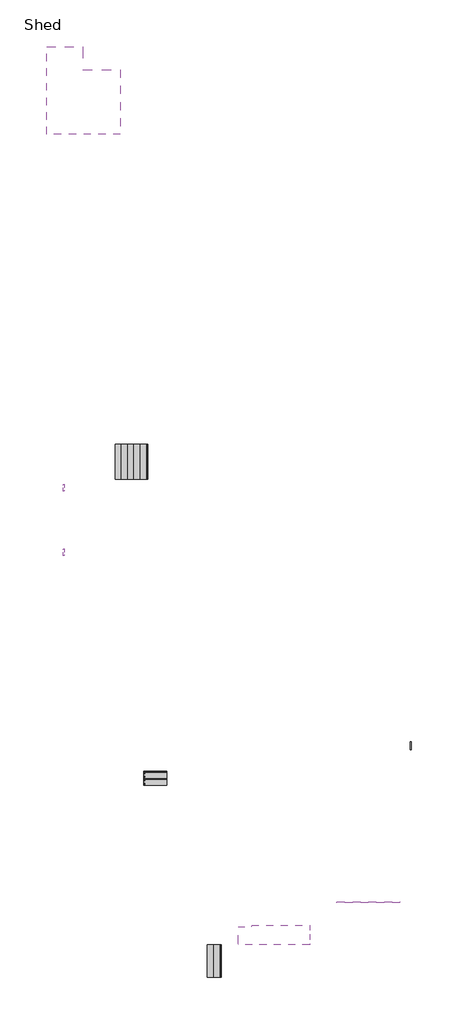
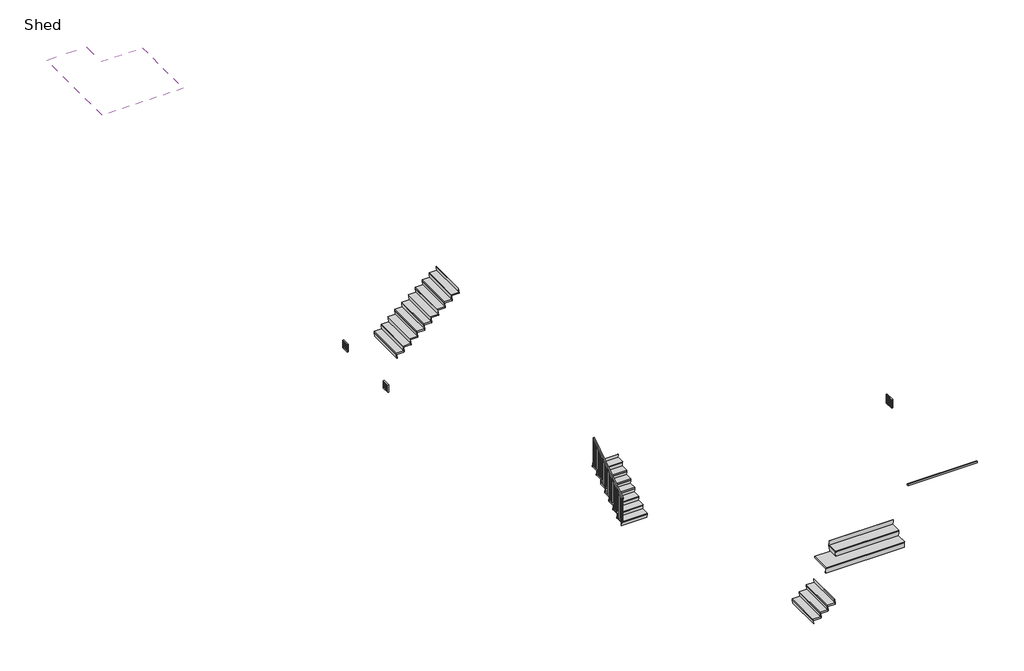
# One storey, incomplete: 4 proxies, 4 stair flights, 1 covering, 1 railing.
"""IFC4 building model written with IfcOpenShell, lengths in millimetres."""

from ifc_helpers import new_model, si_unit, frame, origin, origin_with_axes, place, context, project, spatial, polyline, outline, extrude, transform, mapped, element, save
from components import exhaust_vent_exhaust_vent_d7c90e6a, exhaust_vent_exhaust_vent_9e1b2ee5, exhaust_vent_exhaust_vent_fc6d5a12, type_1_f872f524, stair_flight_50mm_tread_25mm_nosing_13mm_riser_cfb7cb60, stair_flight_50mm_tread_25mm_nosing_13mm_riser_dd2ab24c, stair_flight_50mm_tread_25mm_nosing_13mm_riser_2b7aec5b, stair_flight_50mm_tread_25mm_nosing_13mm_riser_8857c591

model = new_model("IFC4")

# Units and contexts
model_context = context("Model", 3, world=origin())
ifc_project = project(units=[si_unit("LENGTHUNIT", "METRE", prefix="MILLI")], contexts=[model_context])

# Site, building, storey
site = spatial("IfcSite", under=ifc_project)
building = spatial("IfcBuilding", under=site)
storey = spatial("IfcBuildingStorey", under=building, Name="Shed", Elevation=-2133.6)

# Proxies
placement = place(None, origin())
exhaust_vent_exhaust_vent_shape = exhaust_vent_exhaust_vent_d7c90e6a(model_context)
element("IfcBuildingElementProxy", 1, Name="Exhaust Vent : Exhaust Vent", ObjectType="Exhaust Vent : Exhaust Vent", at=placement, inside=storey, context=model_context, shape_type="MappedRepresentation", body=[
    mapped(exhaust_vent_exhaust_vent_shape, transform((8322.5517773, 15533.490736, -2470.511644), x_axis=(0.0, 1.0, 0.0), y_axis=(-1.0, 0.0, 0.0), z_axis=(0.0, 0.0, 1.0))),
])
exhaust_vent_exhaust_vent_2_shape = exhaust_vent_exhaust_vent_9e1b2ee5(model_context)
element("IfcBuildingElementProxy", 2, Name="Exhaust Vent : Exhaust Vent", ObjectType="Exhaust Vent : Exhaust Vent", at=placement, inside=storey, context=model_context, shape_type="MappedRepresentation", body=[
    mapped(exhaust_vent_exhaust_vent_2_shape, transform((8170.1517773, 12998.985336, -2470.511644), x_axis=(0.0, 1.0, 0.0), y_axis=(-1.0, 0.0, 0.0), z_axis=(0.0, 0.0, 1.0))),
])
exhaust_vent_exhaust_vent_3_shape = exhaust_vent_exhaust_vent_fc6d5a12(model_context)
element("IfcBuildingElementProxy", 3, Name="Exhaust Vent : Exhaust Vent", ObjectType="Exhaust Vent : Exhaust Vent", at=placement, inside=storey, context=model_context, shape_type="MappedRepresentation", body=[
    mapped(exhaust_vent_exhaust_vent_3_shape, transform((21549.6017773, 5349.996545, -3215.1512803), x_axis=(0.0, -1.0, 0.0), y_axis=(1.0, 0.0, 0.0), z_axis=(0.0, 0.0, 1.0))),
])
type_1_shape = type_1_f872f524(model_context)
element("IfcBuildingElementProxy", 4, Name="Window Header_Lentil : Type 1", ObjectType="Window Header_Lentil : Type 1", at=placement, inside=storey, context=model_context, shape_type="MappedRepresentation", body=[
    mapped(type_1_shape, transform((20156.8549773, -442.6090595, -1945.2), x_axis=(-1.0, 0.0, 0.0), y_axis=(0.0, -1.0, 0.0), z_axis=(0.0, 0.0, 1.0))),
])

# Covering
element("IfcCovering", 5, ObjectType="1/2\" Ceiling", at=placement, inside=storey, context=model_context, shape_type="SweptSolid", body=[
    extrude(outline(polyline([(7338.2017773, 32930.5963405), (8766.9517773, 32930.5963405), (8766.9517773, 32016.1963405), (10252.8517773, 32016.1963405), (10252.8517773, 29469.8463405), (7338.2017773, 29469.8463405), (7338.2017773, 32930.5963405)])), origin_with_axes(), (0.0, 0.0, 1.0), 12.7),
])

# Railing
element("IfcRailing", 6, ObjectType="900mm Rectangular", at=placement, inside=storey, context=model_context, shape_type="SweptSolid", body=[
    extrude(outline(polyline([(3790.7855405, -360.4190515), (3790.7855405, -300.15), (5574.0409405, 900.0), (5574.0409405, 839.7309485), (3790.7855405, -360.4190515)])), frame((11172.5517773, 0.0, 0.0), z_axis=(1.0, 0.0, 0.0), x_axis=(0.0, 1.0, 0.0)), (0.0, 0.0, 1.0), 50.0),
    extrude(outline(polyline([(5497.0355405, 787.9054888), (5522.0355405, 804.7307568), (5522.0355405, -171.45), (5497.0355405, -171.45), (5497.0355405, 787.9054888)])), frame((11185.0517773, 0.0, 0.0), z_axis=(1.0, 0.0, 0.0), x_axis=(0.0, 1.0, 0.0)), (0.0, 0.0, 1.0), 25.0),
    extrude(outline(polyline([(5359.5355405, 695.3665149), (5384.5355405, 712.1917829), (5384.5355405, -171.45), (5359.5355405, -171.45), (5359.5355405, 695.3665149)])), frame((11185.0517773, 0.0, 0.0), z_axis=(1.0, 0.0, 0.0), x_axis=(0.0, 1.0, 0.0)), (0.0, 0.0, 1.0), 25.0),
    extrude(outline(polyline([(5222.0355405, 602.8275409), (5247.0355405, 619.6528089), (5247.0355405, -342.9), (5222.0355405, -342.9), (5222.0355405, 602.8275409)])), frame((11185.0517773, 0.0, 0.0), z_axis=(1.0, 0.0, 0.0), x_axis=(0.0, 1.0, 0.0)), (0.0, 0.0, 1.0), 25.0),
    extrude(outline(polyline([(5084.5355405, 510.288567), (5109.5355405, 527.113835), (5109.5355405, -342.9), (5084.5355405, -342.9), (5084.5355405, 510.288567)])), frame((11185.0517773, 0.0, 0.0), z_axis=(1.0, 0.0, 0.0), x_axis=(0.0, 1.0, 0.0)), (0.0, 0.0, 1.0), 25.0),
    extrude(outline(polyline([(4947.0355405, 417.749593), (4972.0355405, 434.574861), (4972.0355405, -514.35), (4947.0355405, -514.35), (4947.0355405, 417.749593)])), frame((11185.0517773, 0.0, 0.0), z_axis=(1.0, 0.0, 0.0), x_axis=(0.0, 1.0, 0.0)), (0.0, 0.0, 1.0), 25.0),
    extrude(outline(polyline([(4809.5355405, 325.2106191), (4834.5355405, 342.0358871), (4834.5355405, -514.35), (4809.5355405, -514.35), (4809.5355405, 325.2106191)])), frame((11185.0517773, 0.0, 0.0), z_axis=(1.0, 0.0, 0.0), x_axis=(0.0, 1.0, 0.0)), (0.0, 0.0, 1.0), 25.0),
    extrude(outline(polyline([(4672.0355405, 232.6716451), (4697.0355405, 249.4969131), (4697.0355405, -685.8), (4672.0355405, -685.8), (4672.0355405, 232.6716451)])), frame((11185.0517773, 0.0, 0.0), z_axis=(1.0, 0.0, 0.0), x_axis=(0.0, 1.0, 0.0)), (0.0, 0.0, 1.0), 25.0),
    extrude(outline(polyline([(4534.5355405, 140.1326712), (4559.5355405, 156.9579392), (4559.5355405, -857.25), (4534.5355405, -857.25), (4534.5355405, 140.1326712)])), frame((11185.0517773, 0.0, 0.0), z_axis=(1.0, 0.0, 0.0), x_axis=(0.0, 1.0, 0.0)), (0.0, 0.0, 1.0), 25.0),
    extrude(outline(polyline([(4397.0355405, 47.5936972), (4422.0355405, 64.4189652), (4422.0355405, -857.25), (4397.0355405, -857.25), (4397.0355405, 47.5936972)])), frame((11185.0517773, 0.0, 0.0), z_axis=(1.0, 0.0, 0.0), x_axis=(0.0, 1.0, 0.0)), (0.0, 0.0, 1.0), 25.0),
    extrude(outline(polyline([(4259.5355405, -44.9452767), (4284.5355405, -28.1200087), (4284.5355405, -1028.7), (4259.5355405, -1028.7), (4259.5355405, -44.9452767)])), frame((11185.0517773, 0.0, 0.0), z_axis=(1.0, 0.0, 0.0), x_axis=(0.0, 1.0, 0.0)), (0.0, 0.0, 1.0), 25.0),
    extrude(outline(polyline([(4122.0355405, -137.4842507), (4147.0355405, -120.6589827), (4147.0355405, -1028.7), (4122.0355405, -1028.7), (4122.0355405, -137.4842507)])), frame((11185.0517773, 0.0, 0.0), z_axis=(1.0, 0.0, 0.0), x_axis=(0.0, 1.0, 0.0)), (0.0, 0.0, 1.0), 25.0),
    extrude(outline(polyline([(3984.5355405, -230.0232246), (4009.5355405, -213.1979566), (4009.5355405, -1200.15), (3984.5355405, -1200.15), (3984.5355405, -230.0232246)])), frame((11185.0517773, 0.0, 0.0), z_axis=(1.0, 0.0, 0.0), x_axis=(0.0, 1.0, 0.0)), (0.0, 0.0, 1.0), 25.0),
    extrude(outline(polyline([(3847.0355405, -322.5621985), (3872.0355405, -305.7369306), (3872.0355405, -1200.15), (3847.0355405, -1200.15), (3847.0355405, -322.5621985)])), frame((11185.0517773, 0.0, 0.0), z_axis=(1.0, 0.0, 0.0), x_axis=(0.0, 1.0, 0.0)), (0.0, 0.0, 1.0), 25.0),
    extrude(outline(polyline([(5549.0409405, 822.9056805), (5574.0409405, 839.7309485), (5574.0409405, -171.45), (5549.0409405, -171.45), (5549.0409405, 822.9056805)])), frame((11185.0517773, 0.0, 0.0), z_axis=(1.0, 0.0, 0.0), x_axis=(0.0, 1.0, 0.0)), (0.0, 0.0, 1.0), 25.0),
    extrude(outline(polyline([(3790.7855405, -360.4190515), (3815.7855405, -343.5937835), (3815.7855405, -1200.15), (3790.7855405, -1200.15), (3790.7855405, -360.4190515)])), frame((11185.0517773, 0.0, 0.0), z_axis=(1.0, 0.0, 0.0), x_axis=(0.0, 1.0, 0.0)), (0.0, 0.0, 1.0), 25.0),
])

# Stair flights
stair_flight_50mm_tread_25mm_nosing_13mm_riser_shape = stair_flight_50mm_tread_25mm_nosing_13mm_riser_cfb7cb60(model_context)
element("IfcStairFlight", 7, ObjectType="50mm Tread 25mm Nosing 13mm Riser", at=placement, inside=storey, context=model_context, shape_type="MappedRepresentation", body=[
    mapped(stair_flight_50mm_tread_25mm_nosing_13mm_riser_shape, transform((0.0, 0.0, 0.0), x_axis=(1.0, 0.0, 0.0), y_axis=(0.0, 1.0, 0.0), z_axis=(0.0, 0.0, 1.0))),
])
stair_flight_50mm_tread_25mm_nosing_13mm_riser_2_shape = stair_flight_50mm_tread_25mm_nosing_13mm_riser_dd2ab24c(model_context)
element("IfcStairFlight", 8, ObjectType="50mm Tread 25mm Nosing 13mm Riser", at=placement, inside=storey, context=model_context, shape_type="MappedRepresentation", body=[
    mapped(stair_flight_50mm_tread_25mm_nosing_13mm_riser_2_shape, transform((0.0, 0.0, 0.0), x_axis=(1.0, 0.0, 0.0), y_axis=(0.0, 1.0, 0.0), z_axis=(0.0, 0.0, 1.0))),
])
stair_flight_50mm_tread_25mm_nosing_13mm_riser_3_shape = stair_flight_50mm_tread_25mm_nosing_13mm_riser_2b7aec5b(model_context)
element("IfcStairFlight", 9, ObjectType="50mm Tread 25mm Nosing 13mm Riser", at=placement, inside=storey, context=model_context, shape_type="MappedRepresentation", body=[
    mapped(stair_flight_50mm_tread_25mm_nosing_13mm_riser_3_shape, transform((0.0, 0.0, 0.0), x_axis=(1.0, 0.0, 0.0), y_axis=(0.0, 1.0, 0.0), z_axis=(0.0, 0.0, 1.0))),
])
stair_flight_50mm_tread_25mm_nosing_13mm_riser_4_shape = stair_flight_50mm_tread_25mm_nosing_13mm_riser_8857c591(model_context)
element("IfcStairFlight", 10, ObjectType="50mm Tread 25mm Nosing 13mm Riser", at=placement, inside=storey, context=model_context, shape_type="MappedRepresentation", body=[
    mapped(stair_flight_50mm_tread_25mm_nosing_13mm_riser_4_shape, transform((0.0, 0.0, 0.0), x_axis=(1.0, 0.0, 0.0), y_axis=(0.0, 1.0, 0.0), z_axis=(0.0, 0.0, 1.0))),
])

save(model, "model.ifc")
